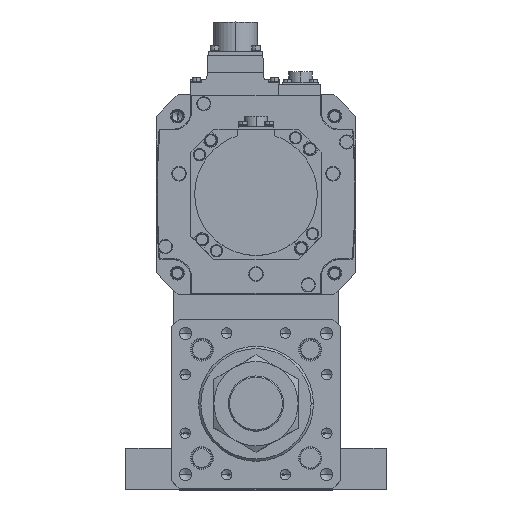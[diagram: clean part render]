
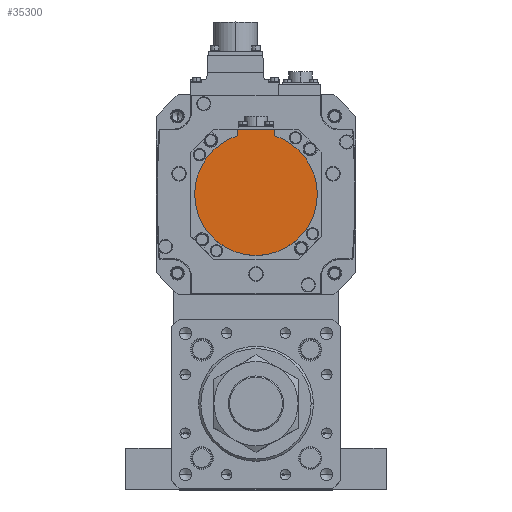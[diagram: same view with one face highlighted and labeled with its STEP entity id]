
A CAD part, top view. The second image highlights one B-rep face of the part: STEP entity #35300.
In plain terms, the highlighted planar face has unit normal (0, 0, 1) as drawn and (0, 0, -1) by its records, which use the part's own axes.
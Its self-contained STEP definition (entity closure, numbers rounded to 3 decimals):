
#102 = ORIENTED_EDGE ( 'NONE', *, *, #23661, .F. ) ;
#291 = VECTOR ( 'NONE', #35760, 1000. ) ;
#1666 = VERTEX_POINT ( 'NONE', #23963 ) ;
#3141 = CARTESIAN_POINT ( 'NONE',  ( 40., 0., -167. ) ) ;
#3177 = DIRECTION ( 'NONE',  ( 0., 0., 1. ) ) ;
#3710 = ORIENTED_EDGE ( 'NONE', *, *, #34111, .T. ) ;
#4622 = EDGE_CURVE ( 'NONE', #32736, #1666, #22360, .T. ) ;
#5374 = VERTEX_POINT ( 'NONE', #3141 ) ;
#6340 = EDGE_CURVE ( 'NONE', #25381, #33600, #22256, .T. ) ;
#6952 = VECTOR ( 'NONE', #10471, 1000. ) ;
#7769 = EDGE_LOOP ( 'NONE', ( #3710, #20972, #13238, #29029, #102, #34883 ) ) ;
#9372 = CIRCLE ( 'NONE', #20717, 40. ) ;
#10471 = DIRECTION ( 'NONE',  ( -1., 0., 0. ) ) ;
#10538 = CARTESIAN_POINT ( 'NONE',  ( 12., -42.5, -167. ) ) ;
#10981 = CARTESIAN_POINT ( 'NONE',  ( 0., 0., -167. ) ) ;
#13238 = ORIENTED_EDGE ( 'NONE', *, *, #36074, .F. ) ;
#13548 = CARTESIAN_POINT ( 'NONE',  ( 12., -1.249, -167. ) ) ;
#13923 = CARTESIAN_POINT ( 'NONE',  ( -40., 0., -167. ) ) ;
#14707 = DIRECTION ( 'NONE',  ( 0., 0., 1. ) ) ;
#15589 = CARTESIAN_POINT ( 'NONE',  ( -12., -40.329, -167. ) ) ;
#17488 = VERTEX_POINT ( 'NONE', #31438 ) ;
#17889 = AXIS2_PLACEMENT_3D ( 'NONE', #20598, #3177, #20731 ) ;
#18956 = LINE ( 'NONE', #15589, #291 ) ;
#19019 = DIRECTION ( 'NONE',  ( 0., 1., 0. ) ) ;
#20598 = CARTESIAN_POINT ( 'NONE',  ( 0., 0., -167. ) ) ;
#20717 = AXIS2_PLACEMENT_3D ( 'NONE', #10981, #22792, #36997 ) ;
#20731 = DIRECTION ( 'NONE',  ( 1., 0., 0. ) ) ;
#20972 = ORIENTED_EDGE ( 'NONE', *, *, #6340, .F. ) ;
#21514 = DIRECTION ( 'NONE',  ( 0., 0., 1. ) ) ;
#22256 = CIRCLE ( 'NONE', #27010, 40. ) ;
#22360 = LINE ( 'NONE', #24849, #6952 ) ;
#22792 = DIRECTION ( 'NONE',  ( 0., 0., 1. ) ) ;
#23661 = EDGE_CURVE ( 'NONE', #32736, #17488, #37554, .T. ) ;
#23963 = CARTESIAN_POINT ( 'NONE',  ( -12., -42.5, -167. ) ) ;
#23970 = PLANE ( 'NONE',  #29246 ) ;
#24290 = VECTOR ( 'NONE', #19019, 1000. ) ;
#24459 = DIRECTION ( 'NONE',  ( 1., 0., 0. ) ) ;
#24849 = CARTESIAN_POINT ( 'NONE',  ( 0., -42.5, -167. ) ) ;
#24876 = FACE_OUTER_BOUND ( 'NONE', #7769, .T. ) ;
#24979 = CARTESIAN_POINT ( 'NONE',  ( -12., -38.158, -167. ) ) ;
#25381 = VERTEX_POINT ( 'NONE', #13923 ) ;
#26801 = CIRCLE ( 'NONE', #17889, 40. ) ;
#27010 = AXIS2_PLACEMENT_3D ( 'NONE', #27507, #21514, #24459 ) ;
#27507 = CARTESIAN_POINT ( 'NONE',  ( 0., 0., -167. ) ) ;
#28801 = EDGE_CURVE ( 'NONE', #17488, #5374, #26801, .T. ) ;
#29029 = ORIENTED_EDGE ( 'NONE', *, *, #28801, .F. ) ;
#29246 = AXIS2_PLACEMENT_3D ( 'NONE', #35489, #14707, #29453 ) ;
#29453 = DIRECTION ( 'NONE',  ( 1., 0., 0. ) ) ;
#31438 = CARTESIAN_POINT ( 'NONE',  ( 12., -38.158, -167. ) ) ;
#32736 = VERTEX_POINT ( 'NONE', #10538 ) ;
#33600 = VERTEX_POINT ( 'NONE', #24979 ) ;
#34111 = EDGE_CURVE ( 'NONE', #1666, #33600, #18956, .T. ) ;
#34883 = ORIENTED_EDGE ( 'NONE', *, *, #4622, .T. ) ;
#35300 = ADVANCED_FACE ( 'NONE', ( #24876 ), #23970, .F. ) ;
#35489 = CARTESIAN_POINT ( 'NONE',  ( 0., -1.249, -167. ) ) ;
#35760 = DIRECTION ( 'NONE',  ( 0., 1., 0. ) ) ;
#36074 = EDGE_CURVE ( 'NONE', #5374, #25381, #9372, .T. ) ;
#36997 = DIRECTION ( 'NONE',  ( 1., 0., 0. ) ) ;
#37554 = LINE ( 'NONE', #13548, #24290 ) ;
